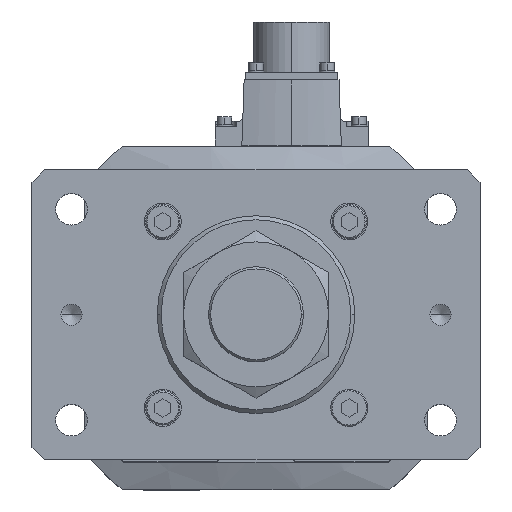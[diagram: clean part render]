
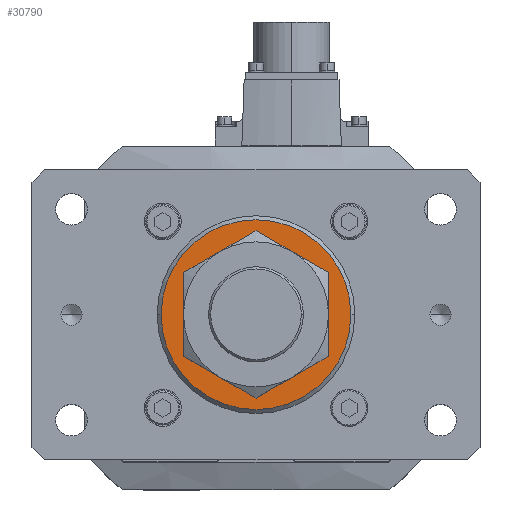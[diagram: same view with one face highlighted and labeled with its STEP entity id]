
A CAD part, top view. The second image highlights one B-rep face of the part: STEP entity #30790.
In plain terms, the highlighted planar face has unit normal (0, 0, 1).
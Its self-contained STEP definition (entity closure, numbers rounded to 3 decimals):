
#221 = CARTESIAN_POINT ( 'NONE',  ( 0., 0., 496. ) ) ;
#659 = FACE_OUTER_BOUND ( 'NONE', #20296, .T. ) ;
#681 = CIRCLE ( 'NONE', #14519, 23. ) ;
#1277 = DIRECTION ( 'NONE',  ( 0., 0., -1. ) ) ;
#1559 = EDGE_LOOP ( 'NONE', ( #5925, #7408 ) ) ;
#3093 = DIRECTION ( 'NONE',  ( 1., 0., 0. ) ) ;
#3499 = EDGE_CURVE ( 'NONE', #16334, #14606, #8123, .T. ) ;
#3715 = PLANE ( 'NONE',  #4977 ) ;
#3909 = AXIS2_PLACEMENT_3D ( 'NONE', #29917, #26898, #27381 ) ;
#4378 = CARTESIAN_POINT ( 'NONE',  ( 0., 0., 496. ) ) ;
#4493 = CARTESIAN_POINT ( 'NONE',  ( 0., 0., 496. ) ) ;
#4977 = AXIS2_PLACEMENT_3D ( 'NONE', #15063, #26546, #29452 ) ;
#5925 = ORIENTED_EDGE ( 'NONE', *, *, #35099, .T. ) ;
#5933 = AXIS2_PLACEMENT_3D ( 'NONE', #221, #20162, #3093 ) ;
#6188 = EDGE_CURVE ( 'NONE', #14606, #16334, #32537, .T. ) ;
#7408 = ORIENTED_EDGE ( 'NONE', *, *, #30314, .T. ) ;
#7620 = DIRECTION ( 'NONE',  ( 0., 0., -1. ) ) ;
#8123 = CIRCLE ( 'NONE', #3909, 36. ) ;
#8238 = FACE_BOUND ( 'NONE', #1559, .T. ) ;
#13730 = CIRCLE ( 'NONE', #29249, 23. ) ;
#14519 = AXIS2_PLACEMENT_3D ( 'NONE', #4378, #1277, #15346 ) ;
#14606 = VERTEX_POINT ( 'NONE', #26233 ) ;
#14687 = VERTEX_POINT ( 'NONE', #29740 ) ;
#15063 = CARTESIAN_POINT ( 'NONE',  ( 0., 0., 496. ) ) ;
#15346 = DIRECTION ( 'NONE',  ( 1., 0., 0. ) ) ;
#16334 = VERTEX_POINT ( 'NONE', #20478 ) ;
#18469 = ORIENTED_EDGE ( 'NONE', *, *, #6188, .T. ) ;
#20162 = DIRECTION ( 'NONE',  ( 0., 0., 1. ) ) ;
#20296 = EDGE_LOOP ( 'NONE', ( #36385, #18469 ) ) ;
#20478 = CARTESIAN_POINT ( 'NONE',  ( -36., 0., 496. ) ) ;
#22061 = DIRECTION ( 'NONE',  ( 1., 0., 0. ) ) ;
#23496 = VERTEX_POINT ( 'NONE', #31765 ) ;
#26233 = CARTESIAN_POINT ( 'NONE',  ( 36., 0., 496. ) ) ;
#26546 = DIRECTION ( 'NONE',  ( 0., 0., 1. ) ) ;
#26898 = DIRECTION ( 'NONE',  ( 0., 0., 1. ) ) ;
#27381 = DIRECTION ( 'NONE',  ( 1., 0., 0. ) ) ;
#29249 = AXIS2_PLACEMENT_3D ( 'NONE', #4493, #7620, #22061 ) ;
#29452 = DIRECTION ( 'NONE',  ( 1., 0., 0. ) ) ;
#29740 = CARTESIAN_POINT ( 'NONE',  ( 23., 0., 496. ) ) ;
#29917 = CARTESIAN_POINT ( 'NONE',  ( 0., 0., 496. ) ) ;
#30314 = EDGE_CURVE ( 'NONE', #23496, #14687, #681, .T. ) ;
#30790 = ADVANCED_FACE ( 'NONE', ( #8238, #659 ), #3715, .T. ) ;
#31765 = CARTESIAN_POINT ( 'NONE',  ( -23., 0., 496. ) ) ;
#32537 = CIRCLE ( 'NONE', #5933, 36. ) ;
#35099 = EDGE_CURVE ( 'NONE', #14687, #23496, #13730, .T. ) ;
#36385 = ORIENTED_EDGE ( 'NONE', *, *, #3499, .T. ) ;
